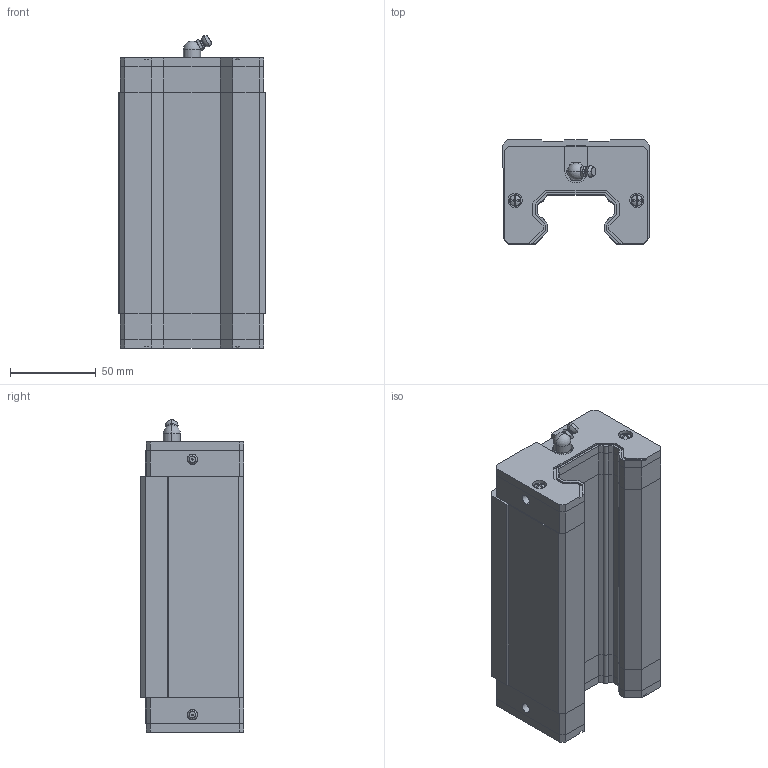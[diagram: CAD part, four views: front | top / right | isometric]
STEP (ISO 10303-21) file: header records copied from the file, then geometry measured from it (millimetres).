
FILE_DESCRIPTION (( 'STEP AP203' ), '1' );
FILE_NAME ('HGH45HA.STEP', '2021-10-25T04:35:49', ( '微软用户' ), ( '微软中国' ), 'SwSTEP 2.0', 'SolidWorks 2018', '' );
FILE_SCHEMA (( 'CONFIG_CONTROL_DESIGN' ));
Length unit declared in the file: millimetre
Products named in the file (3): HGH45HA(2)^HGH45HA; HGH45HA; GHH45HA1R200Z0CI_1_GHH45HA^HGH45HA(2)_HGH45HA
Assembly tree (2 placements, depth 3):
  HGH45HA
    HGH45HA(2)^HGH45HA
      GHH45HA1R200Z0CI_1_GHH45HA^HGH45HA(2)_HGH45HA
Bounding box: 86 x 60.5 x 182.1 mm (x, y, z)
Volume: 654143.9 mm3; surface area: 99835.4 mm2
Topology: 5 solids, 5 shells, 444 faces, 1162 edges, 750 vertices
Faces by surface type: plane 290, cylinder 88, cone 31, torus 25, sphere 10
Entity records: 14210 total; most frequent: CARTESIAN_POINT 2812, DIRECTION 2339, ORIENTED_EDGE 2302, EDGE_CURVE 1151, VECTOR 791, LINE 791, AXIS2_PLACEMENT_3D 774, VERTEX_POINT 749
